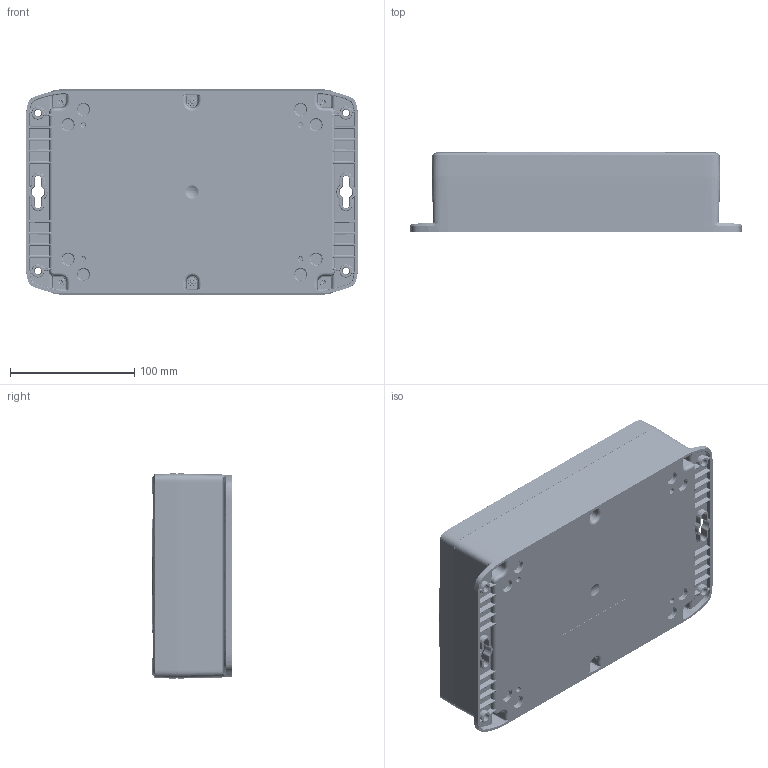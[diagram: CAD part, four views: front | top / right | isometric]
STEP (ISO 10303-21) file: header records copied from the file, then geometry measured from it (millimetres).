
FILE_DESCRIPTION (( 'STEP AP214' ), '1' );
FILE_NAME ('HN-67-03.STEP', '2026-09-24T18:04:05', ( '' ), ( '' ), 'SwSTEP 2.0', 'SolidWorks 2026', '' );
FILE_SCHEMA (( 'AUTOMOTIVE_DESIGN' ));
Length unit declared in the file: inch
Products named in the file (9): SCREWS-054_DEFAULT; HN-69C_HN-69C-00; HN-67B_HN-67BF-00; HN-67BN_HN-67BFN-00; HN-69CG_HN-69CG-00; HN-69G_default; INSERTS-3_INSERTS-3; LABEL-100; HN-67-03
Assembly tree (18 placements, depth 3):
  HN-67-03
    HN-67B_HN-67BF-00
      HN-67BN_HN-67BFN-00
      INSERTS-3_INSERTS-3  x6
      LABEL-100
    HN-69CG_HN-69CG-00
      HN-69C_HN-69C-00
      HN-69G_default
    SCREWS-054_DEFAULT  x6
Bounding box: 266.95 x 63.87 x 165.1 mm (x, y, z)
Volume: 478216.6 mm3; surface area: 304933.7 mm2
Topology: 16 solids, 16 shells, 5774 faces, 13836 edges, 8073 vertices
Faces by surface type: bspline 1364, torus 1218, cone 1094, cylinder 1040, plane 978, sphere 80
Full cylindrical faces by diameter (mm): 2.413 x6, 2.705 x6, 4.318 x6, 4.445 x24, 4.699 x12, 5.283 x12, 6.274 x6, 6.858 x6
Entity records: 196792 total; most frequent: CARTESIAN_POINT 89487, ORIENTED_EDGE 24280, DIRECTION 19627, EDGE_CURVE 12140, AXIS2_PLACEMENT_3D 8428, VERTEX_POINT 7289, EDGE_LOOP 5445, FACE_OUTER_BOUND 5206
